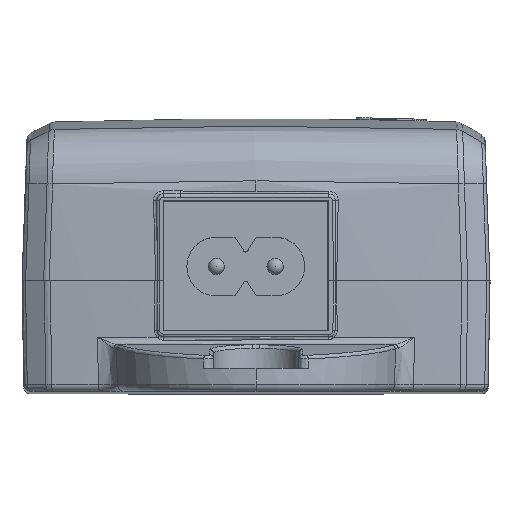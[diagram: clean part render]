
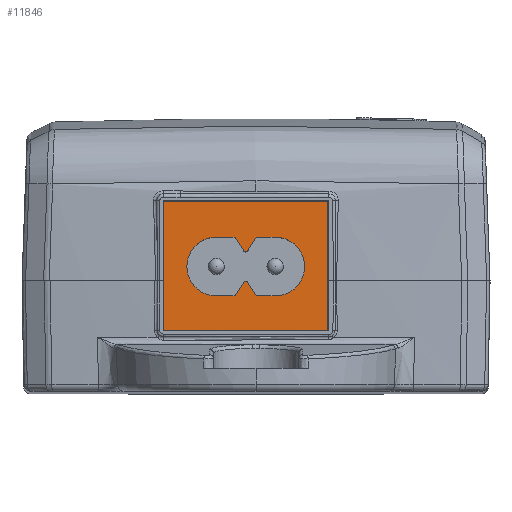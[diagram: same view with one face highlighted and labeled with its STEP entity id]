
A CAD part, top view. The second image highlights one B-rep face of the part: STEP entity #11846.
In plain terms, the highlighted planar face has unit normal (0, 0, 1).
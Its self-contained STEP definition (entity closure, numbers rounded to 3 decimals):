
#141 = ORIENTED_EDGE ( 'NONE', *, *, #4528, .F. ) ;
#201 = LINE ( 'NONE', #18729, #25804 ) ;
#463 = CARTESIAN_POINT ( 'NONE',  ( -1.45, 4.358, 101.7 ) ) ;
#624 = VECTOR ( 'NONE', #30434, 1000. ) ;
#862 = VERTEX_POINT ( 'NONE', #27568 ) ;
#1069 = ORIENTED_EDGE ( 'NONE', *, *, #31128, .T. ) ;
#1086 = PLANE ( 'NONE',  #27599 ) ;
#1321 = CARTESIAN_POINT ( 'NONE',  ( -1.703, 4.196, 101.7 ) ) ;
#1326 = VERTEX_POINT ( 'NONE', #17641 ) ;
#1329 = DIRECTION ( 'NONE',  ( -1., 0., 0. ) ) ;
#1332 = EDGE_CURVE ( 'NONE', #12256, #8454, #8936, .T. ) ;
#1580 = AXIS2_PLACEMENT_3D ( 'NONE', #463, #17798, #2942 ) ;
#2267 = LINE ( 'NONE', #32021, #27892 ) ;
#2296 = CIRCLE ( 'NONE', #24226, 4.15 ) ;
#2942 = DIRECTION ( 'NONE',  ( 0., -1., 0. ) ) ;
#3020 = CARTESIAN_POINT ( 'NONE',  ( -5.6, 2., 101.7 ) ) ;
#3348 = LINE ( 'NONE', #29625, #15761 ) ;
#3371 = CARTESIAN_POINT ( 'NONE',  ( -1.197, 4.196, 101.7 ) ) ;
#3580 = DIRECTION ( 'NONE',  ( 0., 1., 0. ) ) ;
#3824 = CARTESIAN_POINT ( 'NONE',  ( -1.45, -0.358, 101.7 ) ) ;
#3993 = ORIENTED_EDGE ( 'NONE', *, *, #19630, .F. ) ;
#3997 = EDGE_CURVE ( 'NONE', #5914, #13952, #2267, .T. ) ;
#4286 = EDGE_CURVE ( 'NONE', #8644, #26321, #10025, .T. ) ;
#4493 = VECTOR ( 'NONE', #21490, 1000. ) ;
#4528 = EDGE_CURVE ( 'NONE', #13952, #15878, #28872, .T. ) ;
#5117 = EDGE_LOOP ( 'NONE', ( #12316, #11134, #23073, #141, #26153, #13480, #19797, #27043, #15248, #26644, #5878, #3993, #29470 ) ) ;
#5424 = DIRECTION ( 'NONE',  ( 0., 0., -1. ) ) ;
#5521 = DIRECTION ( 'NONE',  ( 0., -1., 0. ) ) ;
#5878 = ORIENTED_EDGE ( 'NONE', *, *, #27804, .F. ) ;
#5914 = VERTEX_POINT ( 'NONE', #24725 ) ;
#6310 = DIRECTION ( 'NONE',  ( 0., -1., 0. ) ) ;
#6445 = VECTOR ( 'NONE', #15568, 1000. ) ;
#7150 = CARTESIAN_POINT ( 'NONE',  ( 2.7, 2., 101.7 ) ) ;
#7396 = DIRECTION ( 'NONE',  ( -1., 0., 0. ) ) ;
#7467 = VECTOR ( 'NONE', #9418, 1000. ) ;
#7649 = AXIS2_PLACEMENT_3D ( 'NONE', #20273, #5424, #22777 ) ;
#7652 = CARTESIAN_POINT ( 'NONE',  ( -1.45, 4.058, 101.7 ) ) ;
#7790 = LINE ( 'NONE', #18670, #26022 ) ;
#8203 = CARTESIAN_POINT ( 'NONE',  ( -2.95, 6.15, 101.7 ) ) ;
#8454 = VERTEX_POINT ( 'NONE', #12954 ) ;
#8585 = VERTEX_POINT ( 'NONE', #20762 ) ;
#8644 = VERTEX_POINT ( 'NONE', #28685 ) ;
#8936 = LINE ( 'NONE', #27524, #13945 ) ;
#9161 = VERTEX_POINT ( 'NONE', #18650 ) ;
#9287 = EDGE_CURVE ( 'NONE', #8454, #21049, #2296, .T. ) ;
#9418 = DIRECTION ( 'NONE',  ( -0.538, 0.843, 0. ) ) ;
#9647 = DIRECTION ( 'NONE',  ( 0., -1., 0. ) ) ;
#10025 = CIRCLE ( 'NONE', #12167, 0.3 ) ;
#10360 = VECTOR ( 'NONE', #31676, 1000. ) ;
#10586 = CARTESIAN_POINT ( 'NONE',  ( 0.05, -2.15, 101.7 ) ) ;
#11134 = ORIENTED_EDGE ( 'NONE', *, *, #23204, .F. ) ;
#11515 = VERTEX_POINT ( 'NONE', #1321 ) ;
#11709 = EDGE_CURVE ( 'NONE', #15878, #11515, #28860, .T. ) ;
#11846 = ADVANCED_FACE ( 'NONE', ( #19939, #27326 ), #1086, .F. ) ;
#12167 = AXIS2_PLACEMENT_3D ( 'NONE', #3824, #21185, #6310 ) ;
#12256 = VERTEX_POINT ( 'NONE', #8203 ) ;
#12316 = ORIENTED_EDGE ( 'NONE', *, *, #1332, .F. ) ;
#12508 = LINE ( 'NONE', #29568, #14030 ) ;
#12623 = EDGE_CURVE ( 'NONE', #8585, #862, #20682, .T. ) ;
#12954 = CARTESIAN_POINT ( 'NONE',  ( -5.6, 6.15, 101.7 ) ) ;
#13480 = ORIENTED_EDGE ( 'NONE', *, *, #26299, .F. ) ;
#13812 = CARTESIAN_POINT ( 'NONE',  ( -2.95, -2.15, 101.7 ) ) ;
#13945 = VECTOR ( 'NONE', #22631, 1000. ) ;
#13952 = VERTEX_POINT ( 'NONE', #3371 ) ;
#14030 = VECTOR ( 'NONE', #24715, 1000. ) ;
#14113 = ORIENTED_EDGE ( 'NONE', *, *, #29695, .T. ) ;
#14622 = CARTESIAN_POINT ( 'NONE',  ( 10.15, -7., 101.7 ) ) ;
#14807 = LINE ( 'NONE', #19273, #7467 ) ;
#15079 = LINE ( 'NONE', #20303, #27520 ) ;
#15248 = ORIENTED_EDGE ( 'NONE', *, *, #19625, .F. ) ;
#15251 = CARTESIAN_POINT ( 'NONE',  ( -5.6, -2.15, 101.7 ) ) ;
#15568 = DIRECTION ( 'NONE',  ( 1., 0., 0. ) ) ;
#15675 = CARTESIAN_POINT ( 'NONE',  ( -5.6, -2.15, 101.7 ) ) ;
#15690 = ORIENTED_EDGE ( 'NONE', *, *, #23252, .F. ) ;
#15761 = VECTOR ( 'NONE', #7396, 1000. ) ;
#15878 = VERTEX_POINT ( 'NONE', #7652 ) ;
#17154 = DIRECTION ( 'NONE',  ( -0.538, -0.843, 0. ) ) ;
#17227 = VERTEX_POINT ( 'NONE', #28904 ) ;
#17641 = CARTESIAN_POINT ( 'NONE',  ( -13.05, 11.2, 101.7 ) ) ;
#17678 = LINE ( 'NONE', #28850, #4493 ) ;
#17798 = DIRECTION ( 'NONE',  ( 0., 0., -1. ) ) ;
#18434 = DIRECTION ( 'NONE',  ( 0., 0., -1. ) ) ;
#18650 = CARTESIAN_POINT ( 'NONE',  ( 0.05, -2.15, 101.7 ) ) ;
#18670 = CARTESIAN_POINT ( 'NONE',  ( 0.05, 6.15, 101.7 ) ) ;
#18729 = CARTESIAN_POINT ( 'NONE',  ( 0.05, -2.15, 101.7 ) ) ;
#19092 = EDGE_CURVE ( 'NONE', #24028, #22898, #3348, .T. ) ;
#19217 = ORIENTED_EDGE ( 'NONE', *, *, #19092, .F. ) ;
#19273 = CARTESIAN_POINT ( 'NONE',  ( -2.95, 6.15, 101.7 ) ) ;
#19625 = EDGE_CURVE ( 'NONE', #26321, #9161, #19627, .T. ) ;
#19627 = LINE ( 'NONE', #10586, #624 ) ;
#19630 = EDGE_CURVE ( 'NONE', #21049, #20185, #26248, .T. ) ;
#19797 = ORIENTED_EDGE ( 'NONE', *, *, #12623, .F. ) ;
#19939 = FACE_BOUND ( 'NONE', #5117, .T. ) ;
#20185 = VERTEX_POINT ( 'NONE', #13812 ) ;
#20273 = CARTESIAN_POINT ( 'NONE',  ( -1.45, 4.358, 101.7 ) ) ;
#20303 = CARTESIAN_POINT ( 'NONE',  ( -2.95, -2.15, 101.7 ) ) ;
#20375 = DIRECTION ( 'NONE',  ( 0., 0., 1. ) ) ;
#20682 = CIRCLE ( 'NONE', #31335, 4.15 ) ;
#20762 = CARTESIAN_POINT ( 'NONE',  ( 2.7, -2.15, 101.7 ) ) ;
#21049 = VERTEX_POINT ( 'NONE', #15675 ) ;
#21185 = DIRECTION ( 'NONE',  ( 0., 0., -1. ) ) ;
#21490 = DIRECTION ( 'NONE',  ( -1., 0., 0. ) ) ;
#21619 = CARTESIAN_POINT ( 'NONE',  ( 10.15, -7., 101.7 ) ) ;
#22631 = DIRECTION ( 'NONE',  ( -1., 0., 0. ) ) ;
#22777 = DIRECTION ( 'NONE',  ( 0., -1., 0. ) ) ;
#22802 = DIRECTION ( 'NONE',  ( 0.538, 0.843, 0. ) ) ;
#22898 = VERTEX_POINT ( 'NONE', #28769 ) ;
#23073 = ORIENTED_EDGE ( 'NONE', *, *, #11709, .F. ) ;
#23204 = EDGE_CURVE ( 'NONE', #11515, #12256, #14807, .T. ) ;
#23252 = EDGE_CURVE ( 'NONE', #22898, #1326, #12508, .T. ) ;
#24028 = VERTEX_POINT ( 'NONE', #21619 ) ;
#24166 = EDGE_LOOP ( 'NONE', ( #1069, #15690, #19217, #14113 ) ) ;
#24226 = AXIS2_PLACEMENT_3D ( 'NONE', #3020, #20375, #5521 ) ;
#24518 = DIRECTION ( 'NONE',  ( 0., 0., 1. ) ) ;
#24715 = DIRECTION ( 'NONE',  ( 0., 1., 0. ) ) ;
#24725 = CARTESIAN_POINT ( 'NONE',  ( 0.05, 6.15, 101.7 ) ) ;
#25804 = VECTOR ( 'NONE', #28620, 1000. ) ;
#25812 = CARTESIAN_POINT ( 'NONE',  ( -13.05, -7., 101.7 ) ) ;
#26022 = VECTOR ( 'NONE', #1329, 1000. ) ;
#26153 = ORIENTED_EDGE ( 'NONE', *, *, #3997, .F. ) ;
#26248 = LINE ( 'NONE', #15251, #6445 ) ;
#26286 = CARTESIAN_POINT ( 'NONE',  ( -1.197, -0.196, 101.7 ) ) ;
#26299 = EDGE_CURVE ( 'NONE', #862, #5914, #7790, .T. ) ;
#26321 = VERTEX_POINT ( 'NONE', #26286 ) ;
#26644 = ORIENTED_EDGE ( 'NONE', *, *, #4286, .F. ) ;
#27043 = ORIENTED_EDGE ( 'NONE', *, *, #31640, .F. ) ;
#27326 = FACE_OUTER_BOUND ( 'NONE', #24166, .T. ) ;
#27520 = VECTOR ( 'NONE', #22802, 1000. ) ;
#27524 = CARTESIAN_POINT ( 'NONE',  ( -5.6, 6.15, 101.7 ) ) ;
#27568 = CARTESIAN_POINT ( 'NONE',  ( 2.7, 6.15, 101.7 ) ) ;
#27599 = AXIS2_PLACEMENT_3D ( 'NONE', #25812, #18434, #3580 ) ;
#27804 = EDGE_CURVE ( 'NONE', #20185, #8644, #15079, .T. ) ;
#27892 = VECTOR ( 'NONE', #17154, 1000. ) ;
#28620 = DIRECTION ( 'NONE',  ( 1., 0., 0. ) ) ;
#28685 = CARTESIAN_POINT ( 'NONE',  ( -1.703, -0.196, 101.7 ) ) ;
#28769 = CARTESIAN_POINT ( 'NONE',  ( -13.05, -7., 101.7 ) ) ;
#28850 = CARTESIAN_POINT ( 'NONE',  ( -13.05, 11.2, 101.7 ) ) ;
#28860 = CIRCLE ( 'NONE', #7649, 0.3 ) ;
#28872 = CIRCLE ( 'NONE', #1580, 0.3 ) ;
#28904 = CARTESIAN_POINT ( 'NONE',  ( 10.15, 11.2, 101.7 ) ) ;
#29374 = LINE ( 'NONE', #14622, #10360 ) ;
#29470 = ORIENTED_EDGE ( 'NONE', *, *, #9287, .F. ) ;
#29568 = CARTESIAN_POINT ( 'NONE',  ( -13.05, -7., 101.7 ) ) ;
#29625 = CARTESIAN_POINT ( 'NONE',  ( -13.05, -7., 101.7 ) ) ;
#29695 = EDGE_CURVE ( 'NONE', #24028, #17227, #29374, .T. ) ;
#30434 = DIRECTION ( 'NONE',  ( 0.538, -0.843, 0. ) ) ;
#31128 = EDGE_CURVE ( 'NONE', #17227, #1326, #17678, .T. ) ;
#31335 = AXIS2_PLACEMENT_3D ( 'NONE', #7150, #24518, #9647 ) ;
#31640 = EDGE_CURVE ( 'NONE', #9161, #8585, #201, .T. ) ;
#31676 = DIRECTION ( 'NONE',  ( 0., 1., 0. ) ) ;
#32021 = CARTESIAN_POINT ( 'NONE',  ( 0.05, 6.15, 101.7 ) ) ;
